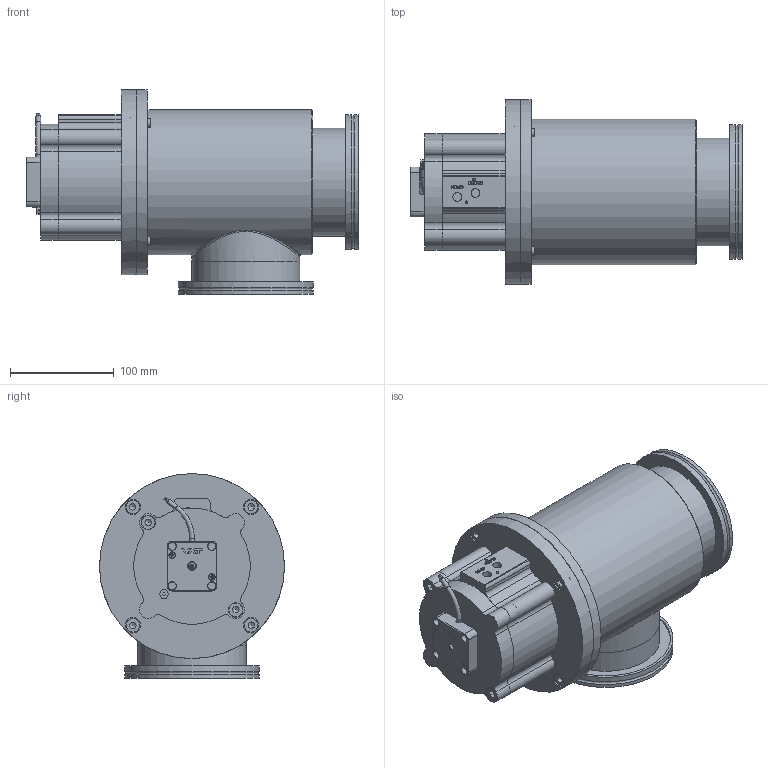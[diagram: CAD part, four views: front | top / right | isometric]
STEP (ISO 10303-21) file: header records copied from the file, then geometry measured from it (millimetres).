
FILE_DESCRIPTION(/* description */ (''),/* implementation_level */ '2;1');
FILE_NAME(/* name */ '1478414104_203.stp',/* time_stamp */ '2014-10-16T08:41:39+02:00',/* author */ (''),/* organization */ (''),/* preprocessor_version */ 'ST-DEVELOPER v11',/* originating_system */ 'SIEMENS PLM Software NX 7.5',/* authorisation */ '');
FILE_SCHEMA (('AP203_CONFIGURATION_CONTROLLED_3D_DESIGN_OF_MECHANICAL_PARTS_AND_ASSEMBLIES_MIM_LF'));
Length unit declared in the file: millimetre
Products named in the file (22): 517238; 513742; 517224; 517223; 517222; 517221; n-6121-026.2; 517625_18254ID; 421306; 233359; 236204_1.1; 224847.1; n-7636-200.2; 544232; 542372; 228777; 476060; 517218_MODEL; 522001_MODEL; 561077_MODEL; 421285; 563104
Assembly tree (28 placements, depth 4):
  563104
    476060
    228777  x4
    542372
    421285
      236204_1.1  x2
      233359
      421306
    561077_MODEL
      517625_18254ID
      n-6121-026.2  x2
    522001_MODEL
      517218_MODEL
        517221  x2
        517222
        517223
        517224
        513742
        517238
    544232
    n-7636-200.2
    224847.1  x2
Bounding box: 319.5 x 178 x 197 mm (x, y, z)
Volume: 1142160.1 mm3; surface area: 471156.6 mm2
Topology: 36 solids, 36 shells, 797 faces, 1954 edges, 1286 vertices
Faces by surface type: plane 431, cylinder 237, cone 67, torus 22, bspline 19, extrusion 19, sphere 2
Full cylindrical faces by diameter (mm): 1.4 x4, 2.5 x5, 3 x7, 3.85 x2, 4.2 x2, 4.5 x2, 5 x1, 5.6 x2, 6.2 x2, 6.66 x6, 6.7 x6, 6.8 x8, 7.4 x1, 8 x13, 8.15 x2, 8.3 x6, 8.4 x1, 8.566 x2, 9 x4, 13 x6, 14 x2, 15 x6, 21 x1, 23.011 x2, 23.3 x1, 29.4 x1, 30 x1, 39.5 x1, 40 x1, 44.4 x1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
Entity records: 24473 total; most frequent: CARTESIAN_POINT 5843, DIRECTION 3256, ORIENTED_EDGE 3020, EDGE_CURVE 1510, AXIS2_PLACEMENT_3D 1251, VERTEX_POINT 1092, EDGE_LOOP 999, VECTOR 754
